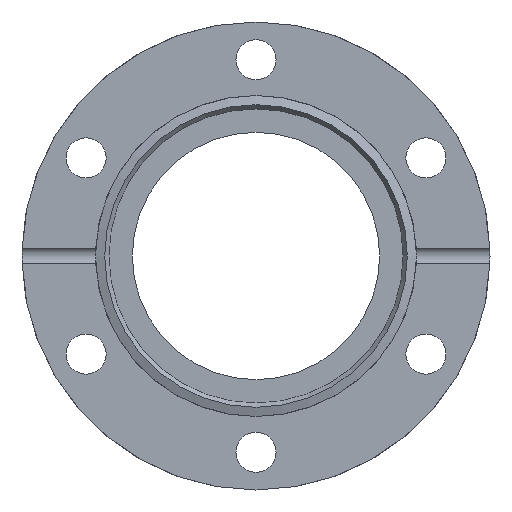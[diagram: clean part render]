
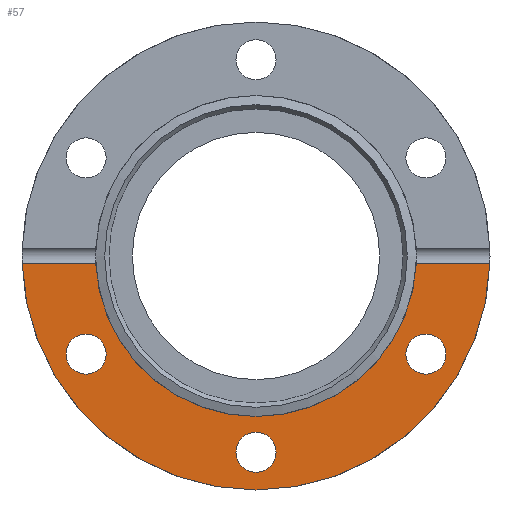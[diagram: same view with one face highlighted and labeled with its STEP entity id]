
A CAD part, left-side view. The second image highlights one B-rep face of the part: STEP entity #57.
In plain terms, the highlighted planar face has unit normal (-1, 0, 0).
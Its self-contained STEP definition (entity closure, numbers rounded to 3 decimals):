
#57 = ADVANCED_FACE( '', ( #131, #132, #133, #134 ), #135, .F. );
#131 = FACE_BOUND( '', #222, .T. );
#132 = FACE_BOUND( '', #223, .T. );
#133 = FACE_BOUND( '', #224, .T. );
#134 = FACE_OUTER_BOUND( '', #225, .T. );
#135 = PLANE( '', #226 );
#222 = EDGE_LOOP( '', ( #325 ) );
#223 = EDGE_LOOP( '', ( #326 ) );
#224 = EDGE_LOOP( '', ( #327 ) );
#225 = EDGE_LOOP( '', ( #328, #329, #330, #331 ) );
#226 = AXIS2_PLACEMENT_3D( '', #332, #333, #334 );
#325 = ORIENTED_EDGE( '', *, *, #435, .F. );
#326 = ORIENTED_EDGE( '', *, *, #429, .F. );
#327 = ORIENTED_EDGE( '', *, *, #432, .F. );
#328 = ORIENTED_EDGE( '', *, *, #442, .T. );
#329 = ORIENTED_EDGE( '', *, *, #443, .T. );
#330 = ORIENTED_EDGE( '', *, *, #444, .F. );
#331 = ORIENTED_EDGE( '', *, *, #423, .T. );
#332 = CARTESIAN_POINT( '', ( -12.7, 0., 35. ) );
#333 = DIRECTION( '', ( 1., 0., 0. ) );
#334 = DIRECTION( '', ( 0., 0., -1. ) );
#423 = EDGE_CURVE( '', #480, #481, #482, .T. );
#429 = EDGE_CURVE( '', #491, #491, #492, .T. );
#432 = EDGE_CURVE( '', #496, #496, #497, .T. );
#435 = EDGE_CURVE( '', #501, #501, #502, .T. );
#442 = EDGE_CURVE( '', #481, #513, #514, .T. );
#443 = EDGE_CURVE( '', #513, #515, #516, .T. );
#444 = EDGE_CURVE( '', #480, #515, #517, .T. );
#480 = VERTEX_POINT( '', #561 );
#481 = VERTEX_POINT( '', #562 );
#482 = LINE( '', #563, #564 );
#491 = VERTEX_POINT( '', #600 );
#492 = CIRCLE( '', #601, 3. );
#496 = VERTEX_POINT( '', #605 );
#497 = CIRCLE( '', #606, 3. );
#501 = VERTEX_POINT( '', #610 );
#502 = CIRCLE( '', #611, 3. );
#513 = VERTEX_POINT( '', #622 );
#514 = CIRCLE( '', #623, 35. );
#515 = VERTEX_POINT( '', #624 );
#516 = LINE( '', #625, #626 );
#517 = CIRCLE( '', #627, 24. );
#561 = CARTESIAN_POINT( '', ( -12.7, 23.974, -1.118 ) );
#562 = CARTESIAN_POINT( '', ( -12.7, 34.982, -1.118 ) );
#563 = CARTESIAN_POINT( '', ( -12.7, -35., -1.118 ) );
#564 = VECTOR( '', #700, 1000. );
#600 = CARTESIAN_POINT( '', ( -12.7, -23.918, -17.273 ) );
#601 = AXIS2_PLACEMENT_3D( '', #705, #706, #707 );
#605 = CARTESIAN_POINT( '', ( -12.7, 3., -29.35 ) );
#606 = AXIS2_PLACEMENT_3D( '', #711, #712, #713 );
#610 = CARTESIAN_POINT( '', ( -12.7, 26.918, -12.077 ) );
#611 = AXIS2_PLACEMENT_3D( '', #717, #718, #719 );
#622 = CARTESIAN_POINT( '', ( -12.7, -34.982, -1.118 ) );
#623 = AXIS2_PLACEMENT_3D( '', #732, #733, #734 );
#624 = CARTESIAN_POINT( '', ( -12.7, -23.974, -1.118 ) );
#625 = CARTESIAN_POINT( '', ( -12.7, -35., -1.118 ) );
#626 = VECTOR( '', #735, 1000. );
#627 = AXIS2_PLACEMENT_3D( '', #736, #737, #738 );
#700 = DIRECTION( '', ( 0., 1., 0. ) );
#705 = CARTESIAN_POINT( '', ( -12.7, -25.418, -14.675 ) );
#706 = DIRECTION( '', ( -1., 0., 0. ) );
#707 = DIRECTION( '', ( 0., 0.5, -0.866 ) );
#711 = CARTESIAN_POINT( '', ( -12.7, 0., -29.35 ) );
#712 = DIRECTION( '', ( -1., 0., 0. ) );
#713 = DIRECTION( '', ( 0., 1., 0. ) );
#717 = CARTESIAN_POINT( '', ( -12.7, 25.418, -14.675 ) );
#718 = DIRECTION( '', ( -1., 0., 0. ) );
#719 = DIRECTION( '', ( 0., 0.5, 0.866 ) );
#732 = CARTESIAN_POINT( '', ( -12.7, 0., 0. ) );
#733 = DIRECTION( '', ( -1., 0., 0. ) );
#734 = DIRECTION( '', ( 0., 0., 1. ) );
#735 = DIRECTION( '', ( 0., 1., 0. ) );
#736 = CARTESIAN_POINT( '', ( -12.7, 0., 0. ) );
#737 = DIRECTION( '', ( -1., 0., 0. ) );
#738 = DIRECTION( '', ( 0., 0., 1. ) );
